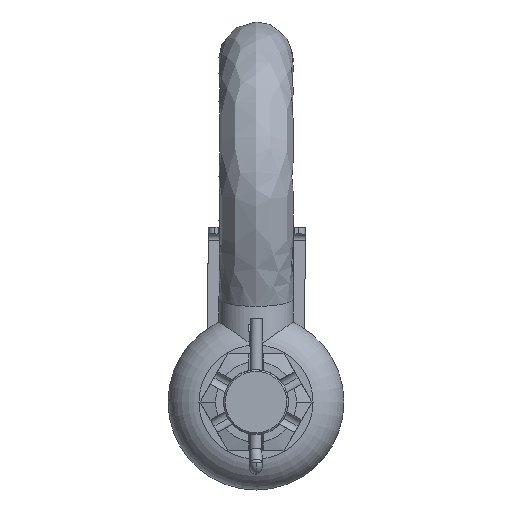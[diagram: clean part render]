
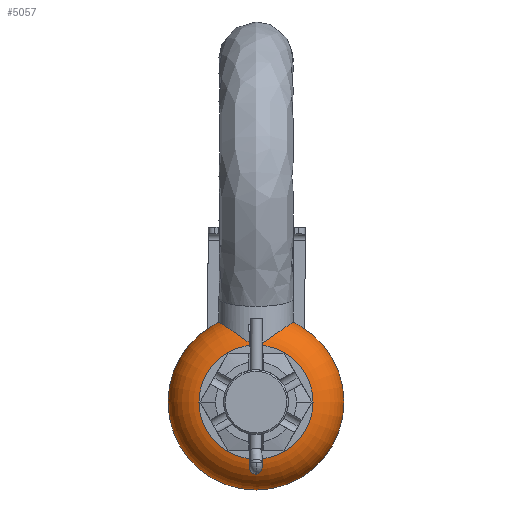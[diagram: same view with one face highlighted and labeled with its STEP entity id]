
A CAD part, left-side view. The second image highlights one B-rep face of the part: STEP entity #5057.
In plain terms, the highlighted toroidal (fillet/blend) face has major radius 15.504 mm and minor radius 11.696 mm.
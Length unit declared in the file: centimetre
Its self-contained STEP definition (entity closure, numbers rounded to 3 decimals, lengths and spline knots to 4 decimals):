
#2091=B_SPLINE_CURVE_WITH_KNOTS('',3,(#6809,#6810,#6811,#6812,#6813,#6814,
#6815,#6816,#6817,#6818,#6819,#6820,#6821,#6822,#6823,#6824,#6825,#6826,
#6827,#6828,#6829,#6830,#6831,#6832,#6833,#6834,#6835,#6836,#6837,#6838,
#6839,#6840,#6841,#6842,#6843,#6844,#6845,#6846,#6847,#6848,#6849,#6850,
#6851,#6852,#6853,#6854,#6855,#6856,#6857,#6858,#6859,#6860,#6861,#6862),
.UNSPECIFIED.,.T.,.U.,(4,2,2,2,2,2,2,2,2,2,2,2,2,2,2,2,2,2,2,2,2,2,2,2,2,
2,4),(0.,0.0568,0.1396,0.2995,0.5407,
0.7311,0.8959,1.0501,1.2075,1.3828,
1.6434,1.758,1.8107,1.8533,1.9126,
1.9945,2.1531,2.4551,2.6936,2.9002,
3.0935,3.291,3.5111,3.8384,3.9801,
4.0458,4.064),.UNSPECIFIED.);
#2092=B_SPLINE_CURVE_WITH_KNOTS('',3,(#6865,#6866,#6867,#6868,#6869,#6870,
#6871,#6872,#6873,#6874,#6875,#6876,#6877,#6878,#6879,#6880,#6881,#6882,
#6883,#6884,#6885,#6886,#6887,#6888,#6889,#6890,#6891,#6892,#6893,#6894,
#6895,#6896,#6897,#6898,#6899,#6900,#6901,#6902,#6903,#6904,#6905,#6906,
#6907,#6908,#6909,#6910,#6911,#6912,#6913,#6914,#6915,#6916,#6917,#6918),
.UNSPECIFIED.,.T.,.U.,(4,2,2,2,2,2,2,2,2,2,2,2,2,2,2,2,2,2,2,2,2,2,2,2,2,
2,4),(0.,0.0568,0.1396,0.2995,0.5407,
0.7311,0.8959,1.0501,1.2075,1.3828,
1.6434,1.758,1.8107,1.8533,1.9126,
1.9945,2.1531,2.4551,2.6936,2.9002,
3.0935,3.291,3.5111,3.8384,3.9801,
4.0458,4.064),.UNSPECIFIED.);
#2146=TOROIDAL_SURFACE('',#5303,1.5504,1.1696);
#2168=VERTEX_POINT('',#6808);
#2169=VERTEX_POINT('',#6863);
#2557=CIRCLE('',#5304,1.7634);
#2558=CIRCLE('',#5305,1.7634);
#2743=EDGE_CURVE('',#2168,#2168,#2557,.T.);
#2744=EDGE_CURVE('',#2169,#2168,#2091,.T.);
#2745=EDGE_CURVE('',#2169,#2169,#2558,.T.);
#2746=EDGE_CURVE('',#2168,#2169,#2092,.T.);
#3293=ORIENTED_EDGE('',*,*,#2743,.T.);
#3294=ORIENTED_EDGE('',*,*,#2744,.F.);
#3295=ORIENTED_EDGE('',*,*,#2745,.F.);
#3296=ORIENTED_EDGE('',*,*,#2746,.F.);
#4393=EDGE_LOOP('',(#3293,#3294,#3295,#3296));
#4721=FACE_BOUND('',#4393,.T.);
#5057=ADVANCED_FACE('',(#4721),#2146,.T.);
#5303=AXIS2_PLACEMENT_3D('',#6806,#5770,$);
#5304=AXIS2_PLACEMENT_3D('',#6807,#5771,#5772);
#5305=AXIS2_PLACEMENT_3D('',#6864,#5773,#5774);
#5770=DIRECTION('',(1.,0.,0.));
#5771=DIRECTION('',(1.,0.,0.));
#5772=DIRECTION('',(0.,0.,-1.763));
#5773=DIRECTION('',(1.,0.,0.));
#5774=DIRECTION('',(0.,0.,-1.763));
#6806=CARTESIAN_POINT('',(-6.,0.,0.));
#6807=CARTESIAN_POINT('',(-7.15,0.,0.));
#6808=CARTESIAN_POINT('',(-7.15,0.,1.7634));
#6809=CARTESIAN_POINT('',(-4.85,0.,1.7634));
#6810=CARTESIAN_POINT('',(-4.85,0.0189,1.7634));
#6811=CARTESIAN_POINT('',(-4.8505,0.0376,1.7657));
#6812=CARTESIAN_POINT('',(-4.8527,0.084,1.7761));
#6813=CARTESIAN_POINT('',(-4.8551,0.1148,1.7872));
#6814=CARTESIAN_POINT('',(-4.8699,0.225,1.8422));
#6815=CARTESIAN_POINT('',(-4.8884,0.3122,1.902));
#6816=CARTESIAN_POINT('',(-4.9799,0.553,2.0701));
#6817=CARTESIAN_POINT('',(-5.0658,0.6924,2.1679));
#6818=CARTESIAN_POINT('',(-5.2834,0.9096,2.3128));
#6819=CARTESIAN_POINT('',(-5.3999,0.9921,2.3658));
#6820=CARTESIAN_POINT('',(-5.6529,1.1038,2.4364));
#6821=CARTESIAN_POINT('',(-5.7815,1.1371,2.457));
#6822=CARTESIAN_POINT('',(-6.0427,1.1562,2.4687));
#6823=CARTESIAN_POINT('',(-6.1706,1.1445,2.4616));
#6824=CARTESIAN_POINT('',(-6.421,1.0781,2.4202));
#6825=CARTESIAN_POINT('',(-6.5394,1.0237,2.3861));
#6826=CARTESIAN_POINT('',(-6.7629,0.8722,2.2881));
#6827=CARTESIAN_POINT('',(-6.8618,0.7734,2.2227));
#6828=CARTESIAN_POINT('',(-7.0559,0.498,2.0333));
#6829=CARTESIAN_POINT('',(-7.106,0.3355,1.9137));
#6830=CARTESIAN_POINT('',(-7.138,0.1731,1.8151));
#6831=CARTESIAN_POINT('',(-7.1439,0.1266,1.7908));
#6832=CARTESIAN_POINT('',(-7.1485,0.0617,1.7704));
#6833=CARTESIAN_POINT('',(-7.1495,0.0407,1.7658));
#6834=CARTESIAN_POINT('',(-7.1501,0.0009,1.7628));
#6835=CARTESIAN_POINT('',(-7.15,-0.0168,1.7634));
#6836=CARTESIAN_POINT('',(-7.1487,-0.06,1.7695));
#6837=CARTESIAN_POINT('',(-7.1471,-0.0846,1.7767));
#6838=CARTESIAN_POINT('',(-7.1417,-0.1416,1.7992));
#6839=CARTESIAN_POINT('',(-7.1371,-0.1749,1.817));
#6840=CARTESIAN_POINT('',(-7.1205,-0.2658,1.8704));
#6841=CARTESIAN_POINT('',(-7.1031,-0.3349,1.9178));
#6842=CARTESIAN_POINT('',(-7.0188,-0.5554,2.0718));
#6843=CARTESIAN_POINT('',(-6.9326,-0.6944,2.1693));
#6844=CARTESIAN_POINT('',(-6.7149,-0.911,2.3137));
#6845=CARTESIAN_POINT('',(-6.5982,-0.9933,2.3665));
#6846=CARTESIAN_POINT('',(-6.3451,-1.1045,2.4368));
#6847=CARTESIAN_POINT('',(-6.2165,-1.1375,2.4572));
#6848=CARTESIAN_POINT('',(-5.9553,-1.1561,2.4687));
#6849=CARTESIAN_POINT('',(-5.8274,-1.1442,2.4614));
#6850=CARTESIAN_POINT('',(-5.5771,-1.0774,2.4197));
#6851=CARTESIAN_POINT('',(-5.4588,-1.0227,2.3854));
#6852=CARTESIAN_POINT('',(-5.2354,-0.8707,2.2872));
#6853=CARTESIAN_POINT('',(-5.1367,-0.7717,2.2216));
#6854=CARTESIAN_POINT('',(-4.9429,-0.4957,2.0317));
#6855=CARTESIAN_POINT('',(-4.8932,-0.3329,1.9118));
#6856=CARTESIAN_POINT('',(-4.8617,-0.1708,1.8139));
#6857=CARTESIAN_POINT('',(-4.856,-0.125,1.7902));
#6858=CARTESIAN_POINT('',(-4.8514,-0.0609,1.7702));
#6859=CARTESIAN_POINT('',(-4.8505,-0.0399,1.7657));
#6860=CARTESIAN_POINT('',(-4.85,-0.0121,1.7637));
#6861=CARTESIAN_POINT('',(-4.85,-0.006,1.7634));
#6862=CARTESIAN_POINT('',(-4.85,0.,1.7634));
#6863=CARTESIAN_POINT('',(-4.85,0.,1.7634));
#6864=CARTESIAN_POINT('',(-4.85,0.,0.));
#6865=CARTESIAN_POINT('',(-4.85,0.,1.7634));
#6866=CARTESIAN_POINT('',(-4.85,0.0189,1.7634));
#6867=CARTESIAN_POINT('',(-4.8505,0.0376,1.7657));
#6868=CARTESIAN_POINT('',(-4.8527,0.084,1.7761));
#6869=CARTESIAN_POINT('',(-4.8551,0.1148,1.7872));
#6870=CARTESIAN_POINT('',(-4.8699,0.225,1.8422));
#6871=CARTESIAN_POINT('',(-4.8884,0.3122,1.902));
#6872=CARTESIAN_POINT('',(-4.9799,0.553,2.0701));
#6873=CARTESIAN_POINT('',(-5.0658,0.6924,2.1679));
#6874=CARTESIAN_POINT('',(-5.2834,0.9096,2.3128));
#6875=CARTESIAN_POINT('',(-5.3999,0.9921,2.3658));
#6876=CARTESIAN_POINT('',(-5.6529,1.1038,2.4364));
#6877=CARTESIAN_POINT('',(-5.7815,1.1371,2.457));
#6878=CARTESIAN_POINT('',(-6.0427,1.1562,2.4687));
#6879=CARTESIAN_POINT('',(-6.1706,1.1445,2.4616));
#6880=CARTESIAN_POINT('',(-6.421,1.0781,2.4202));
#6881=CARTESIAN_POINT('',(-6.5394,1.0237,2.3861));
#6882=CARTESIAN_POINT('',(-6.7629,0.8722,2.2881));
#6883=CARTESIAN_POINT('',(-6.8618,0.7734,2.2227));
#6884=CARTESIAN_POINT('',(-7.0559,0.498,2.0333));
#6885=CARTESIAN_POINT('',(-7.106,0.3355,1.9137));
#6886=CARTESIAN_POINT('',(-7.138,0.1731,1.8151));
#6887=CARTESIAN_POINT('',(-7.1439,0.1266,1.7908));
#6888=CARTESIAN_POINT('',(-7.1485,0.0617,1.7704));
#6889=CARTESIAN_POINT('',(-7.1495,0.0407,1.7658));
#6890=CARTESIAN_POINT('',(-7.1501,0.0009,1.7628));
#6891=CARTESIAN_POINT('',(-7.15,-0.0168,1.7634));
#6892=CARTESIAN_POINT('',(-7.1487,-0.06,1.7695));
#6893=CARTESIAN_POINT('',(-7.1471,-0.0846,1.7767));
#6894=CARTESIAN_POINT('',(-7.1417,-0.1416,1.7992));
#6895=CARTESIAN_POINT('',(-7.1371,-0.1749,1.817));
#6896=CARTESIAN_POINT('',(-7.1205,-0.2658,1.8704));
#6897=CARTESIAN_POINT('',(-7.1031,-0.3349,1.9178));
#6898=CARTESIAN_POINT('',(-7.0188,-0.5554,2.0718));
#6899=CARTESIAN_POINT('',(-6.9326,-0.6944,2.1693));
#6900=CARTESIAN_POINT('',(-6.7149,-0.911,2.3137));
#6901=CARTESIAN_POINT('',(-6.5982,-0.9933,2.3665));
#6902=CARTESIAN_POINT('',(-6.3451,-1.1045,2.4368));
#6903=CARTESIAN_POINT('',(-6.2165,-1.1375,2.4572));
#6904=CARTESIAN_POINT('',(-5.9553,-1.1561,2.4687));
#6905=CARTESIAN_POINT('',(-5.8274,-1.1442,2.4614));
#6906=CARTESIAN_POINT('',(-5.5771,-1.0774,2.4197));
#6907=CARTESIAN_POINT('',(-5.4588,-1.0227,2.3854));
#6908=CARTESIAN_POINT('',(-5.2354,-0.8707,2.2872));
#6909=CARTESIAN_POINT('',(-5.1367,-0.7717,2.2216));
#6910=CARTESIAN_POINT('',(-4.9429,-0.4957,2.0317));
#6911=CARTESIAN_POINT('',(-4.8932,-0.3329,1.9118));
#6912=CARTESIAN_POINT('',(-4.8617,-0.1708,1.8139));
#6913=CARTESIAN_POINT('',(-4.856,-0.125,1.7902));
#6914=CARTESIAN_POINT('',(-4.8514,-0.0609,1.7702));
#6915=CARTESIAN_POINT('',(-4.8505,-0.0399,1.7657));
#6916=CARTESIAN_POINT('',(-4.85,-0.0121,1.7637));
#6917=CARTESIAN_POINT('',(-4.85,-0.006,1.7634));
#6918=CARTESIAN_POINT('',(-4.85,0.,1.7634));
